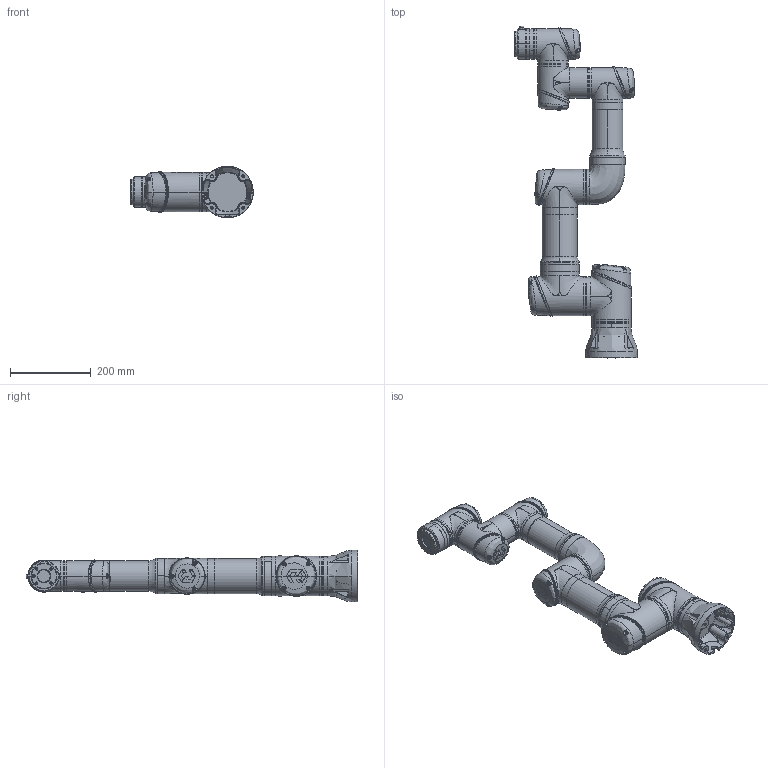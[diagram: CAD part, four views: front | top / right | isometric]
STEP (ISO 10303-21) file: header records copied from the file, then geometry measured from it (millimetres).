
FILE_DESCRIPTION (( 'STEP AP203' ), '1' );
FILE_NAME ('ES_掛极ES63_V1.1.STEP', '2025-07-03T02:58:30', ( '' ), ( '' ), 'SwSTEP 2.0', 'SolidWorks 2017', '' );
FILE_SCHEMA (( 'CONFIG_CONTROL_DESIGN' ));
Products named in the file (8): ES_掛极ES63_V1.1; ES63-J6; ES63-Base; ES68-Flange; ES63-Link2A_Link2B_J4; ES63-J5; ES63-J2_Link1_J3; ES63-J1
Assembly tree (7 placements, depth 2):
  ES_掛极ES63_V1.1
    ES63-Base
    ES63-J1
    ES63-J2_Link1_J3
    ES63-Link2A_Link2B_J4
    ES63-J5
    ES63-J6
    ES68-Flange
Bounding box: 303.32 x 821.2 x 127.7 mm (x, y, z)
Volume: 7891642.5 mm3; surface area: 727835.4 mm2
Topology: 75 solids, 86 shells, 4882 faces, 11550 edges, 6882 vertices
Faces by surface type: bspline 2312, plane 1119, cylinder 751, cone 340, sphere 182, torus 178
Entity records: 477793 total; most frequent: CARTESIAN_POINT 383439, ORIENTED_EDGE 22744, DIRECTION 14937, EDGE_CURVE 11372, VERTEX_POINT 6860, AXIS2_PLACEMENT_3D 6365, EDGE_LOOP 5162, ADVANCED_FACE 4882
